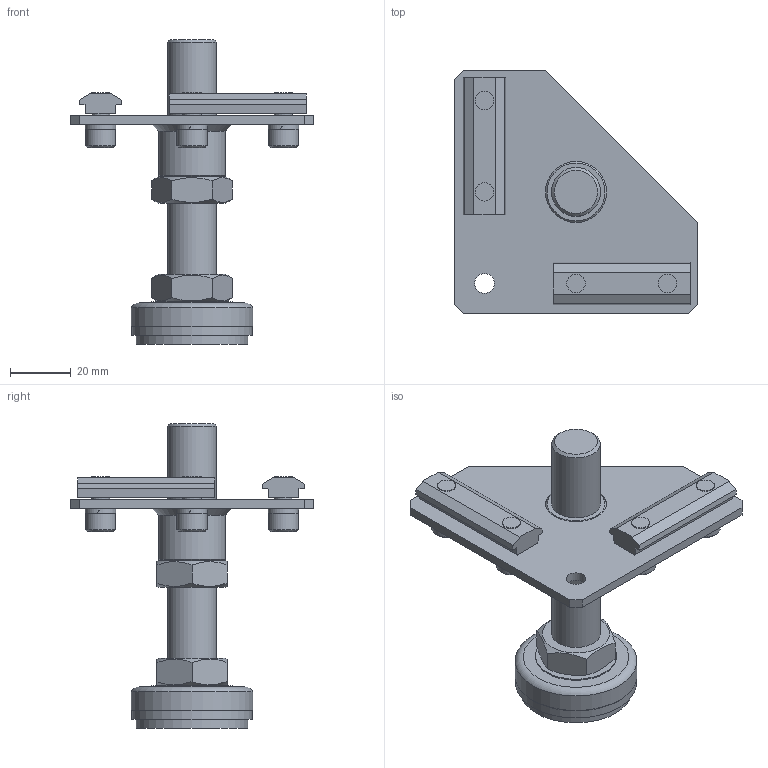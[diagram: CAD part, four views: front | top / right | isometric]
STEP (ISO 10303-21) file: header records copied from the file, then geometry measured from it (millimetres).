
FILE_DESCRIPTION(('STEP AP214'),'1');
FILE_NAME('LS40B-M1640.stp','2024-07-25T10:53:12',(' '),(' '),'Spatial InterOp 3D',' ',' ');
FILE_SCHEMA(('AUTOMOTIVE_DESIGN { 1 0 10303 214 1 1 1 1 }'));
Length unit declared in the file: millimetre
Products named in the file (15): LS40B-M1640; LP40-M16; NFM6-P30; __: ___ - M6.0 x 12.0; M6SW; AJ1640-L100; AJ1650L100; M16ﾅｯﾄ
Assembly tree (15 placements, depth 3):
  LS40B-M1640
    LP40-M16
    NFM6-P30  x2
    __: ___ - M6.0 x 12.0
    __: ___ - M6.0 x 12.0
    __: ___ - M6.0 x 12.0
    __: ___ - M6.0 x 12.0
    M6SW
    M6SW
    M6SW
    M6SW
    AJ1640-L100
      AJ1650L100
      M16ﾅｯﾄ
      M16ﾅｯﾄ
Bounding box: 80 x 80 x 100 mm (x, y, z)
Volume: 61716.9 mm3; surface area: 31933.1 mm2
Topology: 14 solids, 14 shells, 164 faces, 354 edges, 233 vertices
Faces by surface type: plane 115, cylinder 32, cone 16, torus 1
Full cylindrical faces by diameter (mm): 6 x4, 6.5 x5, 9.87 x4, 16 x4, 20 x1, 22 x2, 26.662 x1, 36.6 x1, 39.6 x1, 40 x1
Entity records: 5584 total; most frequent: CARTESIAN_POINT 911, DIRECTION 682, ORIENTED_EDGE 550, EDGE_CURVE 275, AXIS2_PLACEMENT_3D 264, EDGE_LOOP 224, VERTEX_POINT 205, FACE_OUTER_BOUND 173
